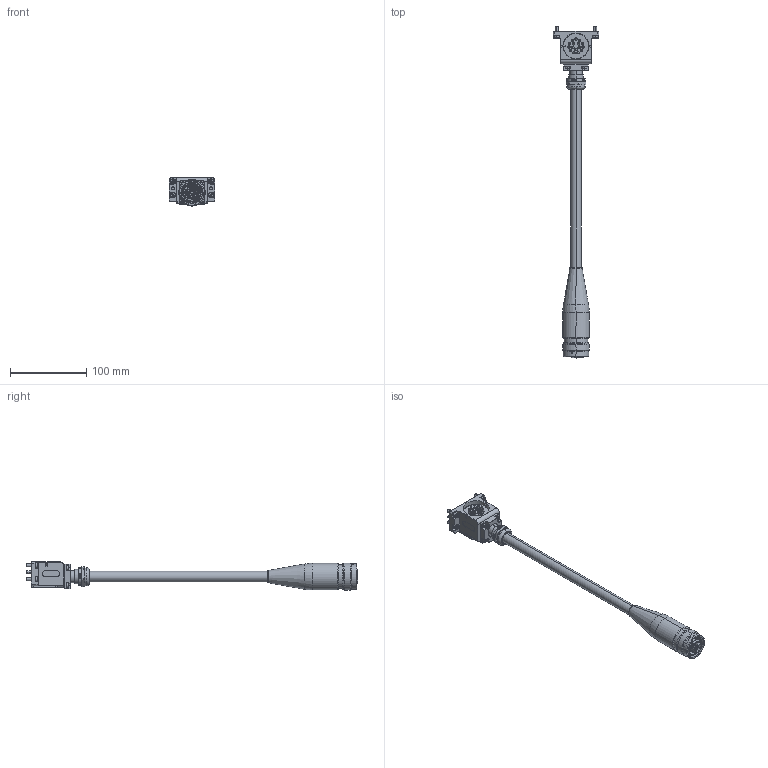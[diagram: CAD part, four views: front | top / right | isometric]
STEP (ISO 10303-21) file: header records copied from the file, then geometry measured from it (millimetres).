
FILE_DESCRIPTION (( 'STEP AP203' ), '1' );
FILE_NAME ('QCSM-16G.STEP', '2024-08-01T01:48:24', ( '微软用户' ), ( '微软中国' ), 'SwSTEP 2.0', 'SolidWorks 2018', '' );
FILE_SCHEMA (( 'CONFIG_CONTROL_DESIGN' ));
Products named in the file (1): QCSM-16G
Bounding box: 60 x 435.69 x 36.92 mm (x, y, z)
Volume: 142858.9 mm3; surface area: 72749.2 mm2
Topology: 47 solids, 47 shells, 2440 faces, 6315 edges, 4056 vertices
Faces by surface type: plane 945, cylinder 854, cone 474, torus 101, sphere 35, bspline 31
Entity records: 83395 total; most frequent: CARTESIAN_POINT 25792, ORIENTED_EDGE 12482, DIRECTION 11292, EDGE_CURVE 6241, AXIS2_PLACEMENT_3D 4462, VERTEX_POINT 4019, EDGE_LOOP 2732, ADVANCED_FACE 2440
